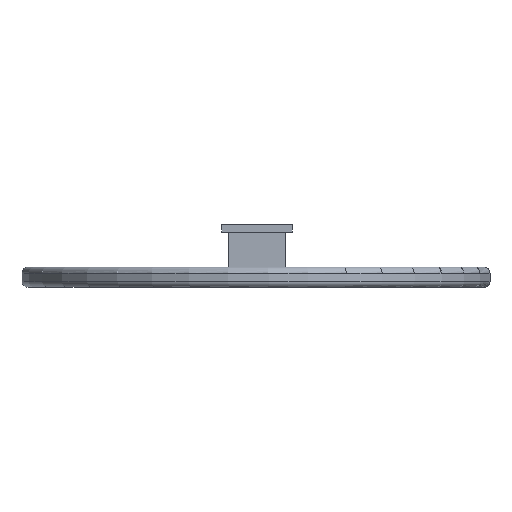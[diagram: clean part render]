
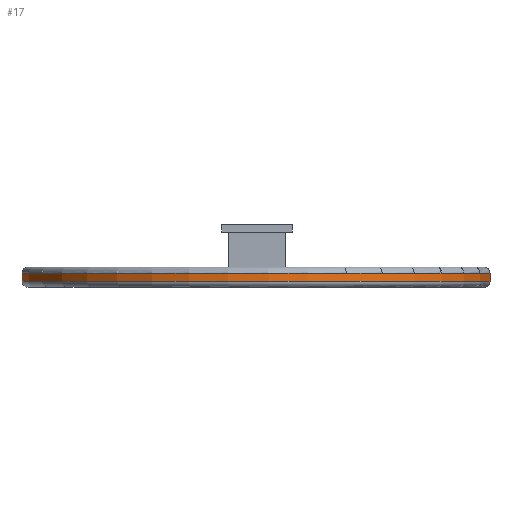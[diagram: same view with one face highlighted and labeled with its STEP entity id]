
A CAD part, left-side view. The second image highlights one B-rep face of the part: STEP entity #17.
In plain terms, the highlighted cylindrical face has radius 70 mm (diameter 140 mm), a partial arc.
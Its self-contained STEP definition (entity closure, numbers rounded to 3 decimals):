
#17 = ADVANCED_FACE('',(#18),#33,.T.);
#18 = FACE_BOUND('',#19,.F.);
#19 = EDGE_LOOP('',(#20,#56,#82,#111));
#20 = ORIENTED_EDGE('',*,*,#21,.F.);
#21 = EDGE_CURVE('',#22,#24,#26,.T.);
#22 = VERTEX_POINT('',#23);
#23 = CARTESIAN_POINT('',(11.,-69.13,-25.2));
#24 = VERTEX_POINT('',#25);
#25 = CARTESIAN_POINT('',(-11.,-69.13,-25.2));
#26 = SURFACE_CURVE('',#27,(#32,#44),.PCURVE_S1.);
#27 = CIRCLE('',#28,70.);
#28 = AXIS2_PLACEMENT_3D('',#29,#30,#31);
#29 = CARTESIAN_POINT('',(0.,0.,-25.2));
#30 = DIRECTION('',(0.,0.,1.));
#31 = DIRECTION('',(0.157,-0.988,0.));
#32 = PCURVE('',#33,#38);
#33 = CYLINDRICAL_SURFACE('',#34,70.);
#34 = AXIS2_PLACEMENT_3D('',#35,#36,#37);
#35 = CARTESIAN_POINT('',(0.,0.,-27.));
#36 = DIRECTION('',(-0.,-0.,-1.));
#37 = DIRECTION('',(1.,0.,0.));
#38 = DEFINITIONAL_REPRESENTATION('',(#39),#43);
#39 = LINE('',#40,#41);
#40 = CARTESIAN_POINT('',(-4.87,-1.8));
#41 = VECTOR('',#42,1.);
#42 = DIRECTION('',(-1.,0.));
#43 = ( GEOMETRIC_REPRESENTATION_CONTEXT(2) 
PARAMETRIC_REPRESENTATION_CONTEXT() REPRESENTATION_CONTEXT('2D SPACE',''
  ) );
#44 = PCURVE('',#45,#50);
#45 = TOROIDAL_SURFACE('',#46,68.2,1.8);
#46 = AXIS2_PLACEMENT_3D('',#47,#48,#49);
#47 = CARTESIAN_POINT('',(0.,0.,-25.2));
#48 = DIRECTION('',(-0.,-0.,-1.));
#49 = DIRECTION('',(1.,0.,-0.));
#50 = DEFINITIONAL_REPRESENTATION('',(#51),#55);
#51 = LINE('',#52,#53);
#52 = CARTESIAN_POINT('',(-4.87,0.));
#53 = VECTOR('',#54,1.);
#54 = DIRECTION('',(-1.,0.));
#55 = ( GEOMETRIC_REPRESENTATION_CONTEXT(2) 
PARAMETRIC_REPRESENTATION_CONTEXT() REPRESENTATION_CONTEXT('2D SPACE',''
  ) );
#56 = ORIENTED_EDGE('',*,*,#57,.F.);
#57 = EDGE_CURVE('',#58,#22,#60,.T.);
#58 = VERTEX_POINT('',#59);
#59 = CARTESIAN_POINT('',(11.,-69.13,-22.8));
#60 = SURFACE_CURVE('',#61,(#65,#71),.PCURVE_S1.);
#61 = LINE('',#62,#63);
#62 = CARTESIAN_POINT('',(11.,-69.13,-27.));
#63 = VECTOR('',#64,1.);
#64 = DIRECTION('',(-0.,-0.,-1.));
#65 = PCURVE('',#33,#66);
#66 = DEFINITIONAL_REPRESENTATION('',(#67),#70);
#67 = B_SPLINE_CURVE_WITH_KNOTS('',1,(#68,#69),.UNSPECIFIED.,.F.,.F.,(2,
    2),(-4.2,-1.8),.PIECEWISE_BEZIER_KNOTS.);
#68 = CARTESIAN_POINT('',(-4.87,-4.2));
#69 = CARTESIAN_POINT('',(-4.87,-1.8));
#70 = ( GEOMETRIC_REPRESENTATION_CONTEXT(2) 
PARAMETRIC_REPRESENTATION_CONTEXT() REPRESENTATION_CONTEXT('2D SPACE',''
  ) );
#71 = PCURVE('',#72,#77);
#72 = PLANE('',#73);
#73 = AXIS2_PLACEMENT_3D('',#74,#75,#76);
#74 = CARTESIAN_POINT('',(11.,-71.,-27.5));
#75 = DIRECTION('',(1.,0.,0.));
#76 = DIRECTION('',(0.,0.,1.));
#77 = DEFINITIONAL_REPRESENTATION('',(#78),#81);
#78 = B_SPLINE_CURVE_WITH_KNOTS('',1,(#79,#80),.UNSPECIFIED.,.F.,.F.,(2,
    2),(-4.2,-1.8),.PIECEWISE_BEZIER_KNOTS.);
#79 = CARTESIAN_POINT('',(4.7,-1.87));
#80 = CARTESIAN_POINT('',(2.3,-1.87));
#81 = ( GEOMETRIC_REPRESENTATION_CONTEXT(2) 
PARAMETRIC_REPRESENTATION_CONTEXT() REPRESENTATION_CONTEXT('2D SPACE',''
  ) );
#82 = ORIENTED_EDGE('',*,*,#83,.F.);
#83 = EDGE_CURVE('',#84,#58,#86,.T.);
#84 = VERTEX_POINT('',#85);
#85 = CARTESIAN_POINT('',(-11.,-69.13,-22.8));
#86 = SURFACE_CURVE('',#87,(#92,#99),.PCURVE_S1.);
#87 = CIRCLE('',#88,70.);
#88 = AXIS2_PLACEMENT_3D('',#89,#90,#91);
#89 = CARTESIAN_POINT('',(0.,0.,-22.8));
#90 = DIRECTION('',(-0.,0.,-1.));
#91 = DIRECTION('',(-0.157,-0.988,0.));
#92 = PCURVE('',#33,#93);
#93 = DEFINITIONAL_REPRESENTATION('',(#94),#98);
#94 = LINE('',#95,#96);
#95 = CARTESIAN_POINT('',(-10.838,-4.2));
#96 = VECTOR('',#97,1.);
#97 = DIRECTION('',(1.,-0.));
#98 = ( GEOMETRIC_REPRESENTATION_CONTEXT(2) 
PARAMETRIC_REPRESENTATION_CONTEXT() REPRESENTATION_CONTEXT('2D SPACE',''
  ) );
#99 = PCURVE('',#100,#105);
#100 = TOROIDAL_SURFACE('',#101,68.2,1.8);
#101 = AXIS2_PLACEMENT_3D('',#102,#103,#104);
#102 = CARTESIAN_POINT('',(0.,0.,-22.8));
#103 = DIRECTION('',(0.,0.,1.));
#104 = DIRECTION('',(1.,0.,-0.));
#105 = DEFINITIONAL_REPRESENTATION('',(#106),#110);
#106 = LINE('',#107,#108);
#107 = CARTESIAN_POINT('',(10.838,0.));
#108 = VECTOR('',#109,1.);
#109 = DIRECTION('',(-1.,-0.));
#110 = ( GEOMETRIC_REPRESENTATION_CONTEXT(2) 
PARAMETRIC_REPRESENTATION_CONTEXT() REPRESENTATION_CONTEXT('2D SPACE',''
  ) );
#111 = ORIENTED_EDGE('',*,*,#112,.T.);
#112 = EDGE_CURVE('',#84,#24,#113,.T.);
#113 = SURFACE_CURVE('',#114,(#118,#124),.PCURVE_S1.);
#114 = LINE('',#115,#116);
#115 = CARTESIAN_POINT('',(-11.,-69.13,-27.));
#116 = VECTOR('',#117,1.);
#117 = DIRECTION('',(-0.,-0.,-1.));
#118 = PCURVE('',#33,#119);
#119 = DEFINITIONAL_REPRESENTATION('',(#120),#123);
#120 = B_SPLINE_CURVE_WITH_KNOTS('',1,(#121,#122),.UNSPECIFIED.,.F.,.F.,
  (2,2),(-4.2,-1.8),.PIECEWISE_BEZIER_KNOTS.);
#121 = CARTESIAN_POINT('',(-10.838,-4.2));
#122 = CARTESIAN_POINT('',(-10.838,-1.8));
#123 = ( GEOMETRIC_REPRESENTATION_CONTEXT(2) 
PARAMETRIC_REPRESENTATION_CONTEXT() REPRESENTATION_CONTEXT('2D SPACE',''
  ) );
#124 = PCURVE('',#125,#130);
#125 = PLANE('',#126);
#126 = AXIS2_PLACEMENT_3D('',#127,#128,#129);
#127 = CARTESIAN_POINT('',(-11.,-71.,-27.5));
#128 = DIRECTION('',(1.,0.,0.));
#129 = DIRECTION('',(0.,0.,1.));
#130 = DEFINITIONAL_REPRESENTATION('',(#131),#134);
#131 = B_SPLINE_CURVE_WITH_KNOTS('',1,(#132,#133),.UNSPECIFIED.,.F.,.F.,
  (2,2),(-4.2,-1.8),.PIECEWISE_BEZIER_KNOTS.);
#132 = CARTESIAN_POINT('',(4.7,-1.87));
#133 = CARTESIAN_POINT('',(2.3,-1.87));
#134 = ( GEOMETRIC_REPRESENTATION_CONTEXT(2) 
PARAMETRIC_REPRESENTATION_CONTEXT() REPRESENTATION_CONTEXT('2D SPACE',''
  ) );
